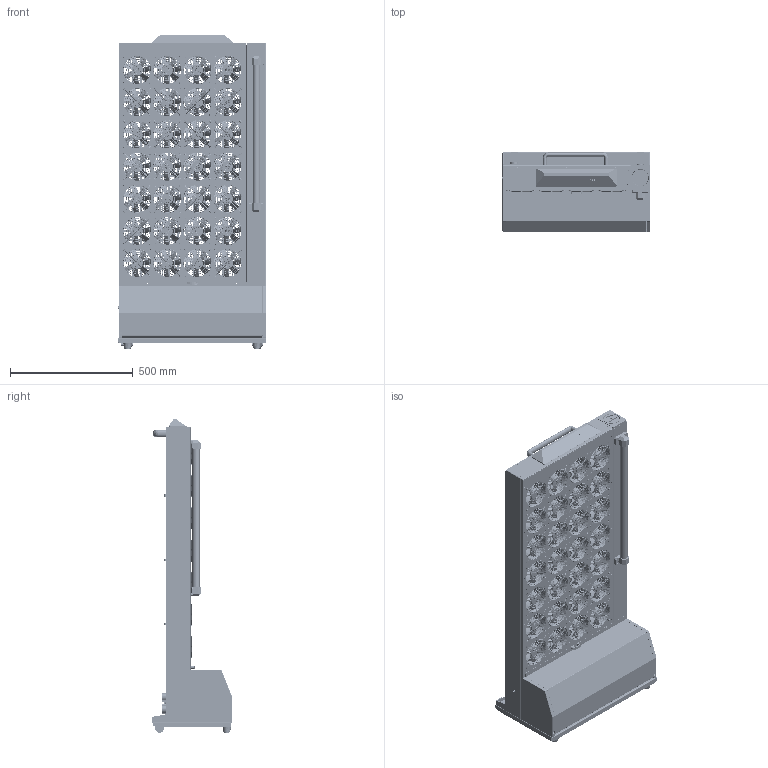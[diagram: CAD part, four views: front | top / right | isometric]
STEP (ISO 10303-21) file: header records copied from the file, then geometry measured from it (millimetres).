
FILE_DESCRIPTION (( 'STEP AP203' ), '1' );
FILE_NAME ('alx-15k 橫撬綰葬4.STEP', '2025-12-10T03:12:44', ( 'aksong' ), ( '' ), 'SwSTEP 2.0', 'SolidWorks 2012', '' );
FILE_SCHEMA (( 'CONFIG_CONTROL_DESIGN' ));
Length unit declared in the file: millimetre
Products named in the file (27): 瞪賊醴幗; fan 4還; 瞪賊っ assy; 夥款っ; 瞪賊っ; 僭戀觼; 饶搁 颊棱捞; 夥款醴幗 槳濩檜; inout 綰楣; 傈搁绊沥 腊阿辑器磐颇飘18; 饶搁魄 assy; 饶搁魄 02; 緊 塭蛤; 謝難 憲嘐晾っ啼; 辦難 憲嘐晾っ啼; 夥款 堅鼠嫦; 夥款 馨蝶攪 夥襪; fnd 綰楣; 鼻っ; alx-15k 橫撬綰葬4; usb pcb panel; 饶搁 傈盔胶困摹; ac 模鰍 粽塭鰍; AC_INLET_ID_15A 腔令 type; 饶搁 焊碍焕措; 僭嫡檜 お溯檜; 饶搁 颇况胶困摹 宏扼南
Assembly tree (36 placements, depth 3):
  alx-15k 橫撬綰葬4
    夥款っ
    僭戀觼
    瞪賊っ assy
      瞪賊っ
      fan 4還  x7
    瞪賊醴幗
    鼻っ
    fnd 綰楣
    夥款 馨蝶攪 夥襪  x2
    夥款 堅鼠嫦  x2
    辦難 憲嘐晾っ啼
    謝難 憲嘐晾っ啼
    饶搁魄 assy
      饶搁魄 02
      緊 塭蛤
    傈搁绊沥 腊阿辑器磐颇飘18
    inout 綰楣
    夥款醴幗 槳濩檜
    饶搁 颊棱捞
    僭嫡檜 お溯檜
    饶搁 焊碍焕措  x3
    饶搁 颇况胶困摹 宏扼南
    ac 模鰍 粽塭鰍
    AC_INLET_ID_15A 腔令 type
    饶搁 傈盔胶困摹
    usb pcb panel
Bounding box: 603.5 x 327.96 x 1275.95 mm (x, y, z)
Volume: 16278410.5 mm3; surface area: 8614592.5 mm2
Topology: 30 solids, 394 shells, 14460 faces, 37265 edges, 23495 vertices
Faces by surface type: plane 6018, cylinder 3866, bspline 3066, torus 1020, cone 490
Entity records: 204948 total; most frequent: CARTESIAN_POINT 72549, ORIENTED_EDGE 27378, DIRECTION 25461, EDGE_CURVE 13745, VERTEX_POINT 8924, LINE 8795, VECTOR 8795, AXIS2_PLACEMENT_3D 8333
